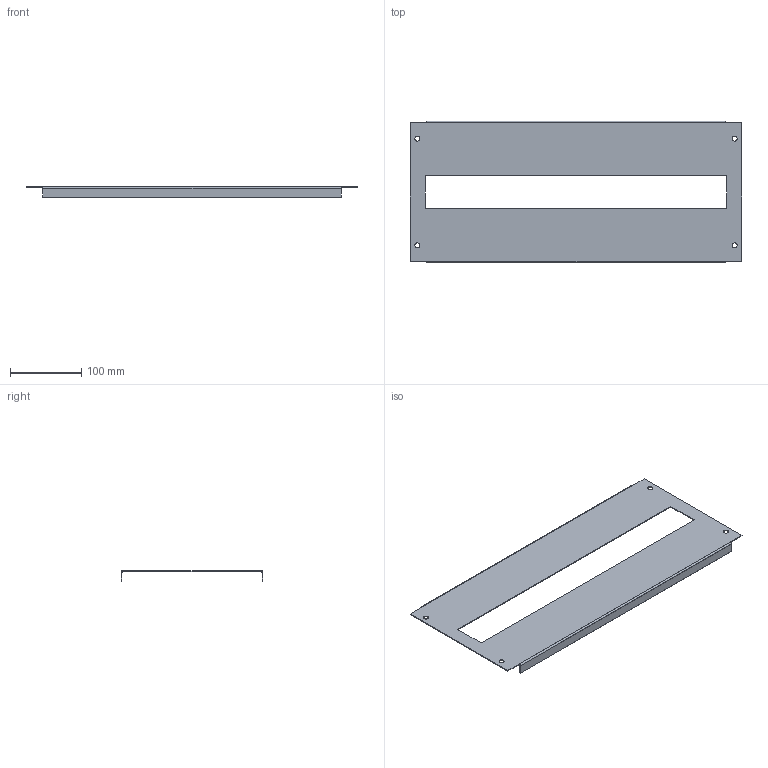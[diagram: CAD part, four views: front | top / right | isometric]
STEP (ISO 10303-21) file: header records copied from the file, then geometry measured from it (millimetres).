
FILE_DESCRIPTION (( 'STEP AP203' ), '1' );
FILE_NAME ('MB 20.50 P Ïàíåëü ìîäóëüíàÿ.STEP', '2012-11-21T07:10:40', ( 'system' ), ( '' ), 'SwSTEP 2.0', 'SolidWorks 2012', '' );
FILE_SCHEMA (( 'CONFIG_CONTROL_DESIGN' ));
Length unit declared in the file: millimetre
Products named in the file (1): MB 20.50 P Ïàíåëü ìîäóëüíàÿ
Bounding box: 465 x 199 x 15 mm (x, y, z)
Volume: 100343.1 mm3; surface area: 170125.8 mm2
Topology: 1 solids, 1 shells, 38 faces, 92 edges, 56 vertices
Faces by surface type: plane 26, cylinder 12
Entity records: 1189 total; most frequent: DIRECTION 194, CARTESIAN_POINT 187, ORIENTED_EDGE 184, EDGE_CURVE 92, LINE 68, VECTOR 68, AXIS2_PLACEMENT_3D 63, VERTEX_POINT 56
